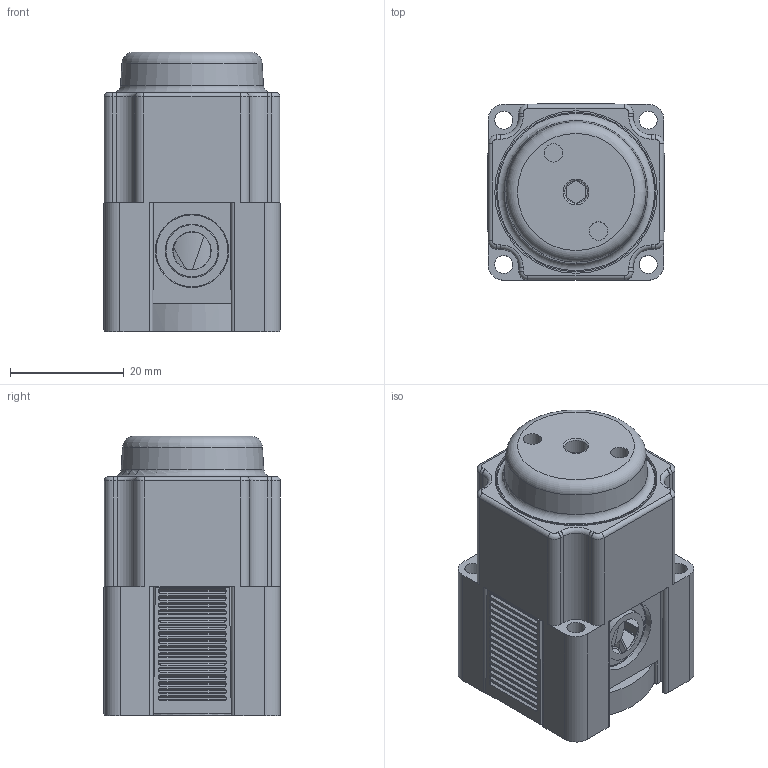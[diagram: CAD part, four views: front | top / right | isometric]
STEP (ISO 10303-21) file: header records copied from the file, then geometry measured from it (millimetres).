
FILE_DESCRIPTION(/* description */ (''),/* implementation_level */ '2;1');
FILE_NAME(/* name */ 'K:\Normteile INVENTOR\Air-Logic\Regulators\PR7000\PR 7___ Template Shrinkwrap.igs.ipt.stp',/* time_stamp */ '2020-05-27T10:54:45+02:00',/* author */ ('Paul'),/* organization */ (''),/* preprocessor_version */ 'ST-DEVELOPER v18',/* originating_system */ 'Autodesk Inventor 2020',/* authorisation */ '');
FILE_SCHEMA (('AUTOMOTIVE_DESIGN { 1 0 10303 214 3 1 1 }'));
Length unit declared in the file: inch
Products named in the file (1): PR 7___ Template Shrinkwrap.igs
Bounding box: 31.19 x 31.06 x 49.15 mm (x, y, z)
Volume: 38141.9 mm3; surface area: 11630.1 mm2
Topology: 1 solids, 1 shells, 539 faces, 1376 edges, 892 vertices
Faces by surface type: plane 267, cylinder 235, torus 19, bspline 16, cone 2
Full cylindrical faces by diameter (mm): 3.175 x4, 3.226 x2, 4.013 x1, 9.169 x1, 12.903 x1, 26.264 x1, 27.991 x1, 28.047 x1, 28.575 x1
Entity records: 18322 total; most frequent: CARTESIAN_POINT 4185, DIRECTION 3035, ORIENTED_EDGE 2752, EDGE_CURVE 1376, AXIS2_PLACEMENT_3D 1217, VERTEX_POINT 892, EDGE_LOOP 606, LINE 601
